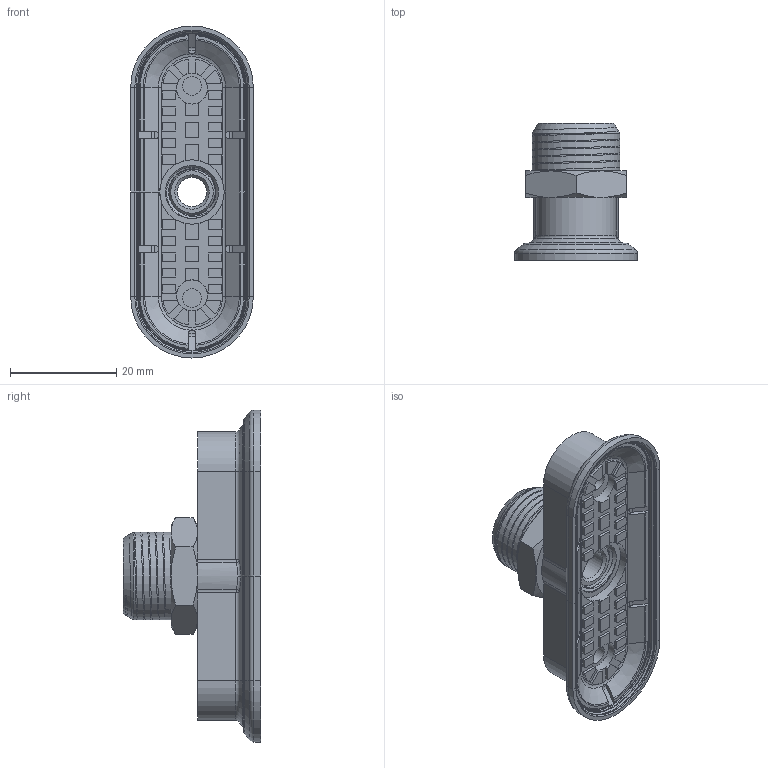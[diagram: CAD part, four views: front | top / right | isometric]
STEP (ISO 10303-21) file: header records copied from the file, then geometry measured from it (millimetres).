
FILE_DESCRIPTION (( 'STEP AP214' ), '1' );
FILE_NAME ('STEP - 4RP 62-- M38.STEP', '2023-11-20T10:56:04', ( '' ), ( '' ), 'SwSTEP 2.0', 'SolidWorks 2021', '' );
FILE_SCHEMA (( 'AUTOMOTIVE_DESIGN' ));
Length unit declared in the file: millimetre
Products named in the file (4): 4RP 62--A; Insert 4RP 62; SENGA -203-083; STEP - 4RP 62-- M38
Assembly tree (3 placements, depth 2):
  STEP - 4RP 62-- M38
    4RP 62--A
    Insert 4RP 62
    SENGA -203-083
Bounding box: 23.14 x 25.89 x 62.59 mm (x, y, z)
Volume: 11752.3 mm3; surface area: 11897.4 mm2
Topology: 4 solids, 4 shells, 642 faces, 1666 edges, 1059 vertices
Faces by surface type: plane 282, cylinder 261, cone 53, torus 29, bspline 17
Full cylindrical faces by diameter (mm): 3.5 x2, 5.5 x2, 5.85 x2, 9.63 x5, 11 x2, 12.139 x1, 13.65 x1, 16.5 x1
Entity records: 23961 total; most frequent: CARTESIAN_POINT 8239, DIRECTION 3325, ORIENTED_EDGE 3226, EDGE_CURVE 1613, AXIS2_PLACEMENT_3D 1232, VERTEX_POINT 1037, VECTOR 861, LINE 861
